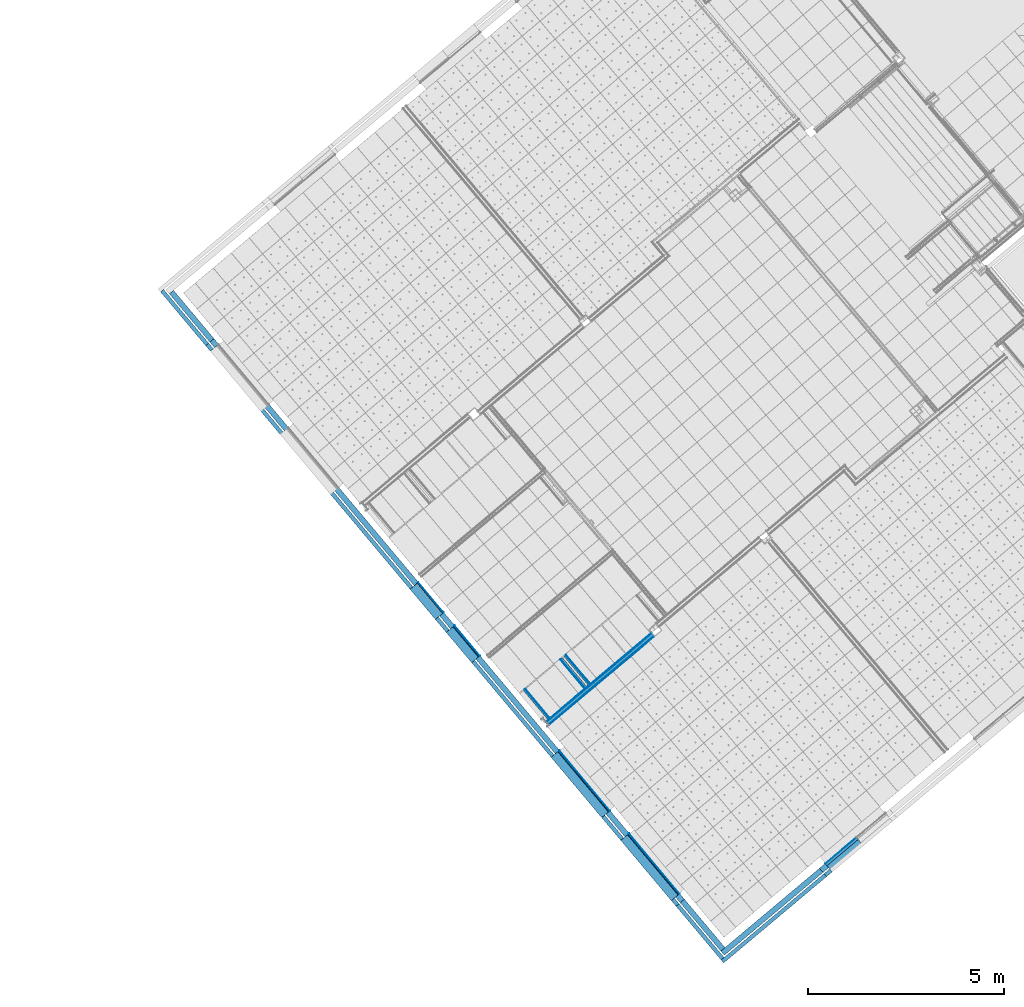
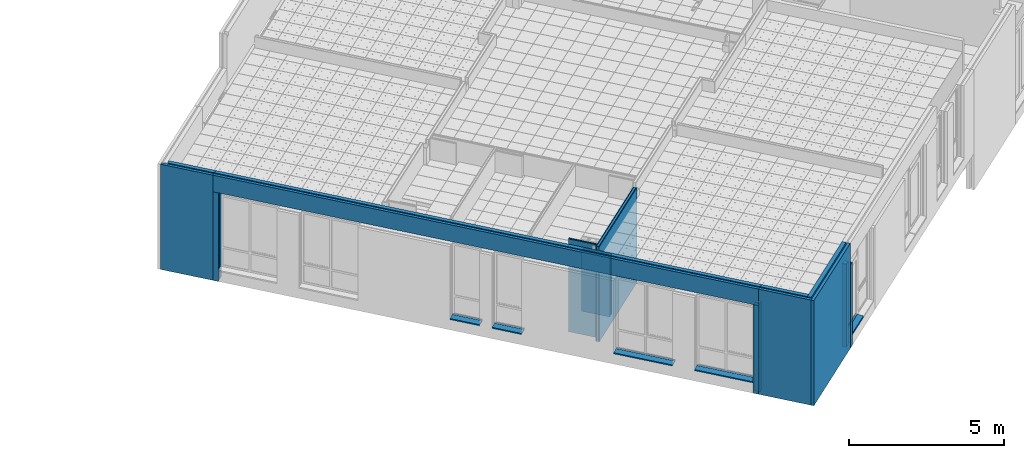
# One storey, part 56 of 338: 42 building element parts, 16 elements without a shape of their own.
"""IFC2X3 building model written with IfcOpenShell, lengths in millimetres."""

from ifc_helpers import new_model, entity, si_unit, converted_unit, derived_unit, money_unit, direction, frame, origin_with_axes, place, context, subcontext, project, spatial, faceted_brep, material, type_object, element, aggregate, save


model = new_model("IFC2X3")

# Units and contexts
model_context = context("Model", 3, precision=0.01, world=origin_with_axes(), true_north=direction((0.0, 1.0)))
plan_context = context("Plan", 3, precision=0.01, world=origin_with_axes(), true_north=direction((0.0, 1.0)))
body_context = subcontext(model_context, "Body", "Model", "MODEL_VIEW")
ifc_project = project(units=[si_unit("LENGTHUNIT", "METRE", prefix="MILLI"), si_unit("AREAUNIT", "SQUARE_METRE"), si_unit("VOLUMEUNIT", "CUBIC_METRE"), converted_unit("PLANEANGLEUNIT", "DEGREE", entity("IfcPlaneAngleMeasure", 0.0174532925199), si_unit("PLANEANGLEUNIT", "RADIAN"), dimensions=[0, 0, 0, 0, 0, 0, 0]), money_unit("EUR"), converted_unit("TIMEUNIT", "Year", entity("IfcTimeMeasure", 31556926.0), si_unit("TIMEUNIT", "SECOND"), dimensions=[0, 0, 1, 0, 0, 0, 0]), si_unit("MASSUNIT", "GRAM", prefix="KILO"), si_unit("THERMODYNAMICTEMPERATUREUNIT", "DEGREE_CELSIUS"), si_unit("LUMINOUSINTENSITYUNIT", "LUMEN"), si_unit("ENERGYUNIT", "JOULE", prefix="MEGA"), derived_unit("THERMALCONDUCTANCEUNIT", [(si_unit("POWERUNIT", "WATT"), 1), (si_unit("LENGTHUNIT", "METRE"), -1), (si_unit("THERMODYNAMICTEMPERATUREUNIT", "KELVIN"), -1)]), derived_unit("SPECIFICHEATCAPACITYUNIT", [(si_unit("ENERGYUNIT", "JOULE"), 1), (si_unit("MASSUNIT", "GRAM", prefix="KILO"), -1), (si_unit("THERMODYNAMICTEMPERATUREUNIT", "KELVIN"), -1)]), derived_unit("MASSDENSITYUNIT", [(si_unit("MASSUNIT", "GRAM", prefix="KILO"), 1), (si_unit("VOLUMEUNIT", "CUBIC_METRE"), -1)])], contexts=[model_context, plan_context])

# Site, building, storey
site_placement = place(None, origin_with_axes())
site = spatial("IfcSite", under=ifc_project, at=site_placement, Name="Fortuinstraat Woensdrecht", CompositionType="ELEMENT")
building_placement = place(site_placement, origin_with_axes())
building = spatial("IfcBuilding", under=site, at=building_placement, Name="IKC Fortuna", CompositionType="ELEMENT")
storey_placement = place(building_placement, origin_with_axes())
storey = spatial("IfcBuildingStorey", under=building, at=storey_placement, Name="00 begane grond", CompositionType="ELEMENT", Elevation=0.0)

# Wall, building element parts
wall_type_1 = type_object("IfcWallType", Name="21 MW hoofd 280", PredefinedType="NOTDEFINED")
wall_1_placement = place(storey_placement, frame((14095.0467052, -16797.8225487, 965.0), z_axis=(0.0, 0.0, 1.0), x_axis=(-0.642787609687, 0.766044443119, 0.0)))
wall_1 = element("IfcWall", 1, at=wall_1_placement, inside=storey, type_object=wall_type_1, Name="21_Wand_Baksteen")
ifc_material_1 = material(Name="Steen - Baksteen Hoofd")
building_element_part_1_placement = place(wall_1_placement, origin_with_axes())
building_element_part_1 = element("IfcBuildingElementPart", 2, at=building_element_part_1_placement, material=ifc_material_1, Name="Steen - Baksteen Hoofd", context=body_context, shape_type="Brep", body=[
    faceted_brep([(-180.0, 280.0, 4135.0), (-180.0, 180.0, 4135.0), (1612.50002062, 180.0, 4135.0), (1612.50002062, 280.0, 4135.0), (-180.0, 280.0, 0.0), (-180.0, 180.0, 0.0), (1612.50002062, 180.0, 0.0), (1612.50002062, 280.0, 0.0)], [[[0, 1, 2, 3]], [[4, 5, 1, 0]], [[1, 5, 6, 2]], [[7, 3, 2, 6]], [[4, 0, 3, 7]], [[5, 4, 7, 6]]]),
])
ifc_material_2 = material(Name="ALG - ISOLATIE")
building_element_part_2_placement = place(wall_1_placement, origin_with_axes())
building_element_part_2 = element("IfcBuildingElementPart", 3, at=building_element_part_2_placement, material=ifc_material_2, Name="ALG - ISOLATIE", context=body_context, shape_type="Brep", body=[
    faceted_brep([(0.0, 0.0, 4135.0), (1612.50002062, 0.0, 4135.0), (1612.50002062, 140.0, 4135.0), (0.0, 140.0, 4135.0), (0.0, 0.0, 0.0), (1612.50002062, 0.0, 0.0), (1612.50002062, 140.0, 0.0), (0.0, 140.0, 0.0)], [[[0, 1, 2, 3]], [[4, 5, 1, 0]], [[2, 1, 5, 6]], [[3, 2, 6, 7]], [[4, 0, 3, 7]], [[7, 6, 5, 4]]]),
])
aggregate(wall_1, [building_element_part_1, building_element_part_2])

wall_2_placement = place(storey_placement, frame((14095.0467052, -16797.8225487, 965.0), z_axis=(0.0, 0.0, 1.0), x_axis=(0.766044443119, 0.642787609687, 0.0)))
wall_2 = element("IfcWall", 4, at=wall_2_placement, inside=storey, type_object=wall_type_1, Name="21_Wand_Baksteen")
building_element_part_3_placement = place(wall_2_placement, origin_with_axes())
building_element_part_3 = element("IfcBuildingElementPart", 5, at=building_element_part_3_placement, material=ifc_material_2, Name="ALG - ISOLATIE", context=body_context, shape_type="Brep", body=[
    faceted_brep([(-140.0, 0.0, 0.0), (3152.78214391, 0.0, 0.0), (3152.78214391, -140.0, 0.0), (-140.0, -140.0, 0.0), (-140.0, 0.0, 4135.0), (3152.78214391, 0.0, 4135.0), (3152.78214391, -140.0, 4135.0), (-140.0, -140.0, 4135.0)], [[[0, 1, 2, 3]], [[4, 5, 1, 0]], [[2, 1, 5, 6]], [[3, 2, 6, 7]], [[4, 0, 3, 7]], [[7, 6, 5, 4]]]),
])
building_element_part_4_placement = place(wall_2_placement, origin_with_axes())
building_element_part_4 = element("IfcBuildingElementPart", 6, at=building_element_part_4_placement, material=ifc_material_1, Name="Steen - Baksteen Hoofd", context=body_context, shape_type="Brep", body=[
    faceted_brep([(-280.0, -280.0, 0.0), (-280.0, -180.0, 0.0), (3152.78214391, -180.0, 0.0), (3152.78214391, -280.0, 0.0), (-280.0, -280.0, 4135.0), (-280.0, -180.0, 4135.0), (3152.78214391, -180.0, 4135.0), (3152.78214391, -280.0, 4135.0)], [[[0, 1, 2, 3]], [[4, 5, 1, 0]], [[1, 5, 6, 2]], [[7, 3, 2, 6]], [[4, 0, 3, 7]], [[5, 4, 7, 6]]]),
])
aggregate(wall_2, [building_element_part_3, building_element_part_4])

wall_type_2 = type_object("IfcWallType", Name="MS125 2.75.2A 125", PredefinedType="NOTDEFINED")
wall_3_placement = place(storey_placement, frame((9589.36390057, -11118.9054061, 1360.0), z_axis=(0.0, 0.0, 1.0), x_axis=(0.766044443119, 0.642787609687, 0.0)))
wall_3 = element("IfcWall", 7, at=wall_3_placement, inside=storey, type_object=wall_type_2, Name="22_Wand_Binnenwand")
ifc_material_3 = material(Name="Gipsplaat")
building_element_part_5_placement = place(wall_3_placement, origin_with_axes())
building_element_part_5 = element("IfcBuildingElementPart", 8, at=building_element_part_5_placement, material=ifc_material_3, Name="Gipsplaat", context=body_context, shape_type="Brep", body=[
    faceted_brep([(3528.71569927, 112.5, 3740.0), (3528.71569927, 125.0, 3740.0), (0.0, 125.0, 3740.0), (0.0, 112.5, 3740.0), (3528.71569927, 112.5, 0.0), (3528.71569927, 125.0, 0.0), (0.0, 125.0, 0.0), (0.0, 112.5, 0.0)], [[[0, 1, 2, 3]], [[0, 4, 5, 1]], [[1, 5, 6, 2]], [[3, 2, 6, 7]], [[4, 0, 3, 7]], [[5, 4, 7, 6]]]),
])
building_element_part_6_placement = place(wall_3_placement, origin_with_axes())
building_element_part_6 = element("IfcBuildingElementPart", 9, at=building_element_part_6_placement, material=ifc_material_3, Name="Gipsplaat", context=body_context, shape_type="Brep", body=[
    faceted_brep([(3528.71569927, 100.0, 3740.0), (3528.71569927, 112.5, 3740.0), (0.0, 112.5, 3740.0), (0.0, 100.0, 3740.0), (3528.71569927, 100.0, 0.0), (3528.71569927, 112.5, 0.0), (0.0, 112.5, 0.0), (0.0, 100.0, 0.0)], [[[0, 1, 2, 3]], [[0, 4, 5, 1]], [[1, 5, 6, 2]], [[3, 2, 6, 7]], [[4, 0, 3, 7]], [[5, 4, 7, 6]]]),
])
ifc_material_4 = material(Name="Isolatie - Steenwol LSW")
building_element_part_7_placement = place(wall_3_placement, origin_with_axes())
building_element_part_7 = element("IfcBuildingElementPart", 10, at=building_element_part_7_placement, material=ifc_material_4, Name="Isolatie - Steenwol LSW", context=body_context, shape_type="Brep", body=[
    faceted_brep([(3528.71569927, 25.0, 3740.0), (3528.71569927, 100.0, 3740.0), (0.0, 100.0, 3740.0), (0.0, 25.0, 3740.0), (3528.71569927, 25.0, 0.0), (3528.71569927, 100.0, 0.0), (0.0, 100.0, 0.0), (0.0, 25.0, 0.0)], [[[0, 1, 2, 3]], [[0, 4, 5, 1]], [[1, 5, 6, 2]], [[3, 2, 6, 7]], [[4, 0, 3, 7]], [[5, 4, 7, 6]]]),
])
building_element_part_8_placement = place(wall_3_placement, origin_with_axes())
building_element_part_8 = element("IfcBuildingElementPart", 11, at=building_element_part_8_placement, material=ifc_material_3, Name="Gipsplaat", context=body_context, shape_type="Brep", body=[
    faceted_brep([(3528.71569927, 12.5, 3740.0), (3528.71569927, 25.0, 3740.0), (0.0, 25.0, 3740.0), (0.0, 12.5, 3740.0), (3528.71569927, 12.5, 0.0), (3528.71569927, 25.0, 0.0), (0.0, 25.0, 0.0), (0.0, 12.5, 0.0)], [[[0, 1, 2, 3]], [[0, 4, 5, 1]], [[1, 5, 6, 2]], [[3, 2, 6, 7]], [[4, 0, 3, 7]], [[5, 4, 7, 6]]]),
])
building_element_part_9_placement = place(wall_3_placement, origin_with_axes())
building_element_part_9 = element("IfcBuildingElementPart", 12, at=building_element_part_9_placement, material=ifc_material_3, Name="Gipsplaat", context=body_context, shape_type="Brep", body=[
    faceted_brep([(3528.71569927, 0.0, 3740.0), (3528.71569927, 12.5, 3740.0), (0.0, 12.5, 3740.0), (0.0, 0.0, 3740.0), (3528.71569927, 0.0, 0.0), (3528.71569927, 12.5, 0.0), (0.0, 12.5, 0.0), (0.0, 0.0, 0.0)], [[[0, 1, 2, 3]], [[0, 4, 5, 1]], [[1, 5, 6, 2]], [[3, 2, 6, 7]], [[4, 0, 3, 7]], [[5, 4, 7, 6]]]),
])
aggregate(wall_3, [building_element_part_5, building_element_part_6, building_element_part_7, building_element_part_8, building_element_part_9])

# Covering, building element parts
covering_type_1 = type_object("IfcCoveringType", Name="41 dorpel 1450 280 x 88", PredefinedType="NOTDEFINED")
covering_1_placement = place(storey_placement, frame((6802.0777967, -8324.20198463, 1447.5), z_axis=(0.0, 0.0, 1.0), x_axis=(-0.642787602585, 0.766044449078, 0.0)))
covering_1 = element("IfcCovering", 13, at=covering_1_placement, inside=storey, type_object=covering_type_1, Name="41_Afwerking_Dorpel", PredefinedType="NOTDEFINED")
ifc_material_5 = material(Name="Steen - Kunststeen")
building_element_part_10_placement = place(covering_1_placement, origin_with_axes())
building_element_part_10 = element("IfcBuildingElementPart", 14, at=building_element_part_10_placement, material=ifc_material_5, Name="Steen - Kunststeen", context=body_context, shape_type="Brep", body=[
    faceted_brep([(1010.0, 140.0, -39.7722078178), (1010.0, 140.0, -85.0), (0.0, 140.0, -85.0), (0.0, 140.0, -39.7722078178), (1010.0, -82.0, -19.5865456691), (1010.0, -82.0, 2.5), (1010.0, -92.0, 2.5), (1010.0, -92.0, -85.0), (0.0, -92.0, -85.0), (0.0, -92.0, 2.5), (0.0, -82.0, 2.5), (0.0, -82.0, -19.5865456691)], [[[0, 1, 2, 3]], [[0, 4, 5, 6, 7, 1]], [[1, 7, 8, 2]], [[3, 2, 8, 9, 10, 11]], [[4, 0, 3, 11]], [[5, 4, 11, 10]], [[6, 5, 10, 9]], [[7, 6, 9, 8]]]),
])
ifc_material_6 = material(Name="Hout AFW")
building_element_part_11_placement = place(covering_1_placement, origin_with_axes())
building_element_part_11 = element("IfcBuildingElementPart", 15, at=building_element_part_11_placement, material=ifc_material_6, Name="Hout AFW", context=body_context, shape_type="Brep", body=[
    faceted_brep([(1010.0, -92.0000008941, 2.49999910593), (1010.0, -92.0000008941, -85.0), (0.0, -92.0000008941, -85.0), (0.0, -92.0000008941, 2.49999910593), (1010.0, -130.0, 2.49999910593), (1010.0, -130.0, -85.0), (0.0, -130.0, -85.0), (0.0, -130.0, 2.49999910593)], [[[0, 1, 2, 3]], [[0, 4, 5, 1]], [[1, 5, 6, 2]], [[3, 2, 6, 7]], [[4, 0, 3, 7]], [[5, 4, 7, 6]]]),
])
ifc_material_7 = material(Name="Isolatie - PUR gespoten")
building_element_part_12_placement = place(covering_1_placement, origin_with_axes())
building_element_part_12 = element("IfcBuildingElementPart", 16, at=building_element_part_12_placement, material=ifc_material_7, Name="Isolatie - PUR gespoten", context=body_context, shape_type="Brep", body=[
    faceted_brep([(1010.0, -129.999999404, -85.0), (1010.0, -140.000000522, -85.0), (0.0, -140.000000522, -85.0), (0.0, -129.999999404, -85.0), (1010.0, -129.999999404, 2.49999869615), (1010.0, -140.000000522, 2.5), (0.0, -140.000000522, 2.5), (0.0, -129.999999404, 2.49999869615)], [[[0, 1, 2, 3]], [[0, 4, 5, 1]], [[1, 5, 6, 2]], [[3, 2, 6, 7]], [[4, 0, 3, 7]], [[5, 4, 7, 6]]]),
])
aggregate(covering_1, [building_element_part_10, building_element_part_11, building_element_part_12])

covering_2_placement = place(storey_placement, frame((12830.7827739, -15508.9328015, 1447.5), z_axis=(0.0, 0.0, 1.0), x_axis=(-0.642787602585, 0.766044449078, 0.0)))
covering_2 = element("IfcCovering", 17, at=covering_2_placement, inside=storey, type_object=covering_type_1, Name="41_Afwerking_Dorpel", PredefinedType="NOTDEFINED")
building_element_part_13_placement = place(covering_2_placement, origin_with_axes())
building_element_part_13 = element("IfcBuildingElementPart", 18, at=building_element_part_13_placement, material=ifc_material_5, Name="Steen - Kunststeen", context=body_context, shape_type="Brep", body=[
    faceted_brep([(2010.0, 140.0, -39.7722078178), (2010.0, 140.0, -85.0), (0.0, 140.0, -85.0), (0.0, 140.0, -39.7722078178), (2010.0, -82.0, -19.5865456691), (2010.0, -82.0, 2.5), (2010.0, -92.0, 2.5), (2010.0, -92.0, -85.0), (0.0, -92.0, -85.0), (0.0, -92.0, 2.5), (0.0, -82.0, 2.5), (0.0, -82.0, -19.5865456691)], [[[0, 1, 2, 3]], [[0, 4, 5, 6, 7, 1]], [[1, 7, 8, 2]], [[3, 2, 8, 9, 10, 11]], [[4, 0, 3, 11]], [[5, 4, 11, 10]], [[6, 5, 10, 9]], [[7, 6, 9, 8]]]),
])
building_element_part_14_placement = place(covering_2_placement, origin_with_axes())
building_element_part_14 = element("IfcBuildingElementPart", 19, at=building_element_part_14_placement, material=ifc_material_6, Name="Hout AFW", context=body_context, shape_type="Brep", body=[
    faceted_brep([(2010.0, -92.0000008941, 2.49999910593), (2010.0, -92.0000008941, -85.0), (0.0, -92.0000008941, -85.0), (0.0, -92.0000008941, 2.49999910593), (2010.0, -130.0, 2.49999910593), (2010.0, -130.0, -85.0), (0.0, -130.0, -85.0), (0.0, -130.0, 2.49999910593)], [[[0, 1, 2, 3]], [[0, 4, 5, 1]], [[1, 5, 6, 2]], [[3, 2, 6, 7]], [[4, 0, 3, 7]], [[5, 4, 7, 6]]]),
])
building_element_part_15_placement = place(covering_2_placement, origin_with_axes())
building_element_part_15 = element("IfcBuildingElementPart", 20, at=building_element_part_15_placement, material=ifc_material_7, Name="Isolatie - PUR gespoten", context=body_context, shape_type="Brep", body=[
    faceted_brep([(2010.0, -129.999999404, -85.0), (2010.0, -140.000000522, -85.0), (0.0, -140.000000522, -85.0), (0.0, -129.999999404, -85.0), (2010.0, -129.999999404, 2.49999869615), (2010.0, -140.000000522, 2.5), (0.0, -140.000000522, 2.5), (0.0, -129.999999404, 2.49999869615)], [[[0, 1, 2, 3]], [[0, 4, 5, 1]], [[1, 5, 6, 2]], [[3, 2, 6, 7]], [[4, 0, 3, 7]], [[5, 4, 7, 6]]]),
])
aggregate(covering_2, [building_element_part_13, building_element_part_14, building_element_part_15])

covering_3_placement = place(storey_placement, frame((11050.2610819, -13386.9896782, 1447.5), z_axis=(0.0, 0.0, 1.0), x_axis=(-0.642787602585, 0.766044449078, 0.0)))
covering_3 = element("IfcCovering", 21, at=covering_3_placement, inside=storey, type_object=covering_type_1, Name="41_Afwerking_Dorpel", PredefinedType="NOTDEFINED")
building_element_part_16_placement = place(covering_3_placement, origin_with_axes())
building_element_part_16 = element("IfcBuildingElementPart", 22, at=building_element_part_16_placement, material=ifc_material_5, Name="Steen - Kunststeen", context=body_context, shape_type="Brep", body=[
    faceted_brep([(2010.0, 140.0, -39.7722078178), (2010.0, 140.0, -85.0), (0.0, 140.0, -85.0), (0.0, 140.0, -39.7722078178), (2010.0, -82.0, -19.5865456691), (2010.0, -82.0, 2.5), (2010.0, -92.0, 2.5), (2010.0, -92.0, -85.0), (0.0, -92.0, -85.0), (0.0, -92.0, 2.5), (0.0, -82.0, 2.5), (0.0, -82.0, -19.5865456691)], [[[0, 1, 2, 3]], [[0, 4, 5, 6, 7, 1]], [[1, 7, 8, 2]], [[3, 2, 8, 9, 10, 11]], [[4, 0, 3, 11]], [[5, 4, 11, 10]], [[6, 5, 10, 9]], [[7, 6, 9, 8]]]),
])
building_element_part_17_placement = place(covering_3_placement, origin_with_axes())
building_element_part_17 = element("IfcBuildingElementPart", 23, at=building_element_part_17_placement, material=ifc_material_6, Name="Hout AFW", context=body_context, shape_type="Brep", body=[
    faceted_brep([(2010.0, -92.0000008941, 2.49999910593), (2010.0, -92.0000008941, -85.0), (0.0, -92.0000008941, -85.0), (0.0, -92.0000008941, 2.49999910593), (2010.0, -130.0, 2.49999910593), (2010.0, -130.0, -85.0), (0.0, -130.0, -85.0), (0.0, -130.0, 2.49999910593)], [[[0, 1, 2, 3]], [[0, 4, 5, 1]], [[1, 5, 6, 2]], [[3, 2, 6, 7]], [[4, 0, 3, 7]], [[5, 4, 7, 6]]]),
])
building_element_part_18_placement = place(covering_3_placement, origin_with_axes())
building_element_part_18 = element("IfcBuildingElementPart", 24, at=building_element_part_18_placement, material=ifc_material_7, Name="Isolatie - PUR gespoten", context=body_context, shape_type="Brep", body=[
    faceted_brep([(2010.0, -129.999999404, -85.0), (2010.0, -140.000000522, -85.0), (0.0, -140.000000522, -85.0), (0.0, -129.999999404, -85.0), (2010.0, -129.999999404, 2.49999869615), (2010.0, -140.000000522, 2.5), (0.0, -140.000000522, 2.5), (0.0, -129.999999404, 2.49999869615)], [[[0, 1, 2, 3]], [[0, 4, 5, 1]], [[1, 5, 6, 2]], [[3, 2, 6, 7]], [[4, 0, 3, 7]], [[5, 4, 7, 6]]]),
])
aggregate(covering_3, [building_element_part_16, building_element_part_17, building_element_part_18])

covering_4_placement = place(storey_placement, frame((7727.69195344, -9427.30598373, 1447.5), z_axis=(0.0, 0.0, 1.0), x_axis=(-0.642787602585, 0.766044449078, 0.0)))
covering_4 = element("IfcCovering", 25, at=covering_4_placement, inside=storey, type_object=covering_type_1, Name="41_Afwerking_Dorpel", PredefinedType="NOTDEFINED")
building_element_part_19_placement = place(covering_4_placement, origin_with_axes())
building_element_part_19 = element("IfcBuildingElementPart", 26, at=building_element_part_19_placement, material=ifc_material_5, Name="Steen - Kunststeen", context=body_context, shape_type="Brep", body=[
    faceted_brep([(1010.0, 140.0, -39.7722078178), (1010.0, 140.0, -85.0), (0.0, 140.0, -85.0), (0.0, 140.0, -39.7722078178), (1010.0, -82.0, -19.5865456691), (1010.0, -82.0, 2.5), (1010.0, -92.0, 2.5), (1010.0, -92.0, -85.0), (0.0, -92.0, -85.0), (0.0, -92.0, 2.5), (0.0, -82.0, 2.5), (0.0, -82.0, -19.5865456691)], [[[0, 1, 2, 3]], [[0, 4, 5, 6, 7, 1]], [[1, 7, 8, 2]], [[3, 2, 8, 9, 10, 11]], [[4, 0, 3, 11]], [[5, 4, 11, 10]], [[6, 5, 10, 9]], [[7, 6, 9, 8]]]),
])
building_element_part_20_placement = place(covering_4_placement, origin_with_axes())
building_element_part_20 = element("IfcBuildingElementPart", 27, at=building_element_part_20_placement, material=ifc_material_6, Name="Hout AFW", context=body_context, shape_type="Brep", body=[
    faceted_brep([(1010.0, -92.0000008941, 2.49999910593), (1010.0, -92.0000008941, -85.0), (0.0, -92.0000008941, -85.0), (0.0, -92.0000008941, 2.49999910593), (1010.0, -130.0, 2.49999910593), (1010.0, -130.0, -85.0), (0.0, -130.0, -85.0), (0.0, -130.0, 2.49999910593)], [[[0, 1, 2, 3]], [[0, 4, 5, 1]], [[1, 5, 6, 2]], [[3, 2, 6, 7]], [[4, 0, 3, 7]], [[5, 4, 7, 6]]]),
])
building_element_part_21_placement = place(covering_4_placement, origin_with_axes())
building_element_part_21 = element("IfcBuildingElementPart", 28, at=building_element_part_21_placement, material=ifc_material_7, Name="Isolatie - PUR gespoten", context=body_context, shape_type="Brep", body=[
    faceted_brep([(1010.0, -129.999999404, -85.0), (1010.0, -140.000000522, -85.0), (0.0, -140.000000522, -85.0), (0.0, -129.999999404, -85.0), (1010.0, -129.999999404, 2.49999869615), (1010.0, -140.000000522, 2.5), (0.0, -140.000000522, 2.5), (0.0, -129.999999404, 2.49999869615)], [[[0, 1, 2, 3]], [[0, 4, 5, 1]], [[1, 5, 6, 2]], [[3, 2, 6, 7]], [[4, 0, 3, 7]], [[5, 4, 7, 6]]]),
])
aggregate(covering_4, [building_element_part_19, building_element_part_20, building_element_part_21])

# Wall, building element parts
wall_type_3 = type_object("IfcWallType", Name="MS75 50.2A 75", PredefinedType="NOTDEFINED")
wall_4_placement = place(storey_placement, frame((9629.67430257, -10931.6956062, 1450.0), z_axis=(0.0, 0.0, 1.0), x_axis=(-0.642787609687, 0.766044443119, 0.0)))
wall_4 = element("IfcWall", 29, at=wall_4_placement, inside=storey, type_object=wall_type_3, Name="22_Wand_Binnenwand")
building_element_part_22_placement = place(wall_4_placement, origin_with_axes())
building_element_part_22 = element("IfcBuildingElementPart", 30, at=building_element_part_22_placement, material=ifc_material_4, Name="Isolatie - Steenwol LSW", context=body_context, shape_type="Brep", body=[
    faceted_brep([(975.655487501, 75.0, 0.0), (975.655487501, 25.0, 0.0), (0.0, 25.0, 0.0), (0.0, 75.0, 0.0), (975.655487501, 75.0, 3650.0), (975.655487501, 25.0, 3650.0), (0.0, 25.0, 3650.0), (0.0, 75.0, 3650.0)], [[[0, 1, 2, 3]], [[0, 4, 5, 1]], [[1, 5, 6, 2]], [[3, 2, 6, 7]], [[4, 0, 3, 7]], [[5, 4, 7, 6]]]),
])
building_element_part_23_placement = place(wall_4_placement, origin_with_axes())
building_element_part_23 = element("IfcBuildingElementPart", 31, at=building_element_part_23_placement, material=ifc_material_3, Name="Gipsplaat", context=body_context, shape_type="Brep", body=[
    faceted_brep([(975.655487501, 25.0, 0.0), (975.655487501, 12.5, 0.0), (0.0, 12.5, 0.0), (0.0, 25.0, 0.0), (975.655487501, 25.0, 3650.0), (975.655487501, 12.5, 3650.0), (0.0, 12.5, 3650.0), (0.0, 25.0, 3650.0)], [[[0, 1, 2, 3]], [[0, 4, 5, 1]], [[1, 5, 6, 2]], [[3, 2, 6, 7]], [[4, 0, 3, 7]], [[5, 4, 7, 6]]]),
])
building_element_part_24_placement = place(wall_4_placement, origin_with_axes())
building_element_part_24 = element("IfcBuildingElementPart", 32, at=building_element_part_24_placement, material=ifc_material_3, Name="Gipsplaat", context=body_context, shape_type="Brep", body=[
    faceted_brep([(975.655487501, 12.5, 0.0), (975.655487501, 0.0, 0.0), (0.0, 0.0, 0.0), (0.0, 12.5, 0.0), (975.655487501, 12.5, 3650.0), (975.655487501, 0.0, 3650.0), (0.0, 0.0, 3650.0), (0.0, 12.5, 3650.0)], [[[0, 1, 2, 3]], [[0, 4, 5, 1]], [[1, 5, 6, 2]], [[3, 2, 6, 7]], [[4, 0, 3, 7]], [[5, 4, 7, 6]]]),
])
aggregate(wall_4, [building_element_part_22, building_element_part_23, building_element_part_24])

wall_5_placement = place(storey_placement, frame((10667.018953, -10061.2600926, 1450.0), z_axis=(0.0, 0.0, 1.0), x_axis=(-0.642787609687, 0.766044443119, 0.0)))
wall_5 = element("IfcWall", 33, at=wall_5_placement, inside=storey, type_object=wall_type_3, Name="22_Wand_Binnenwand")
building_element_part_25_placement = place(wall_5_placement, origin_with_axes())
building_element_part_25 = element("IfcBuildingElementPart", 34, at=building_element_part_25_placement, material=ifc_material_4, Name="Isolatie - Steenwol LSW", context=body_context, shape_type="Brep", body=[
    faceted_brep([(975.655484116, 75.0, 0.0), (975.655484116, 25.0, 0.0), (0.0, 25.0, 0.0), (0.0, 75.0, 0.0), (975.655484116, 75.0, 2367.0), (975.655484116, 25.0, 2367.0), (0.0, 25.0, 2367.0), (0.0, 75.0, 2367.0)], [[[0, 1, 2, 3]], [[0, 4, 5, 1]], [[1, 5, 6, 2]], [[3, 2, 6, 7]], [[4, 0, 3, 7]], [[5, 4, 7, 6]]]),
])
building_element_part_26_placement = place(wall_5_placement, origin_with_axes())
building_element_part_26 = element("IfcBuildingElementPart", 35, at=building_element_part_26_placement, material=ifc_material_3, Name="Gipsplaat", context=body_context, shape_type="Brep", body=[
    faceted_brep([(975.655484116, 25.0, 0.0), (975.655484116, 12.5, 0.0), (0.0, 12.5, 0.0), (0.0, 25.0, 0.0), (975.655484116, 25.0, 2367.0), (975.655484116, 12.5, 2367.0), (0.0, 12.5, 2367.0), (0.0, 25.0, 2367.0)], [[[0, 1, 2, 3]], [[0, 4, 5, 1]], [[1, 5, 6, 2]], [[3, 2, 6, 7]], [[4, 0, 3, 7]], [[5, 4, 7, 6]]]),
])
building_element_part_27_placement = place(wall_5_placement, origin_with_axes())
building_element_part_27 = element("IfcBuildingElementPart", 36, at=building_element_part_27_placement, material=ifc_material_3, Name="Gipsplaat", context=body_context, shape_type="Brep", body=[
    faceted_brep([(975.655484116, 12.5, 0.0), (975.655484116, 0.0, 0.0), (0.0, 0.0, 0.0), (0.0, 12.5, 0.0), (975.655484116, 12.5, 2367.0), (975.655484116, 0.0, 2367.0), (0.0, 0.0, 2367.0), (0.0, 12.5, 2367.0)], [[[0, 1, 2, 3]], [[0, 4, 5, 1]], [[1, 5, 6, 2]], [[3, 2, 6, 7]], [[4, 0, 3, 7]], [[5, 4, 7, 6]]]),
])
aggregate(wall_5, [building_element_part_25, building_element_part_26, building_element_part_27])

wall_6_placement = place(storey_placement, frame((10513.8100643, -10189.8176146, 1450.0), z_axis=(0.0, 0.0, 1.0), x_axis=(-0.642787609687, 0.766044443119, 0.0)))
wall_6 = element("IfcWall", 37, at=wall_6_placement, inside=storey, type_object=wall_type_3, Name="22_Wand_Binnenwand")
building_element_part_28_placement = place(wall_6_placement, origin_with_axes())
building_element_part_28 = element("IfcBuildingElementPart", 38, at=building_element_part_28_placement, material=ifc_material_3, Name="Gipsplaat", context=body_context, shape_type="Brep", body=[
    faceted_brep([(975.655484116, -12.5, 2367.0), (975.655484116, 0.0, 2367.0), (0.0, 0.0, 2367.0), (0.0, -12.5, 2367.0), (975.655484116, -12.5, 0.0), (975.655484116, 0.0, 0.0), (0.0, 0.0, 0.0), (0.0, -12.5, 0.0)], [[[0, 1, 2, 3]], [[0, 4, 5, 1]], [[1, 5, 6, 2]], [[3, 2, 6, 7]], [[4, 0, 3, 7]], [[5, 4, 7, 6]]]),
])
building_element_part_29_placement = place(wall_6_placement, origin_with_axes())
building_element_part_29 = element("IfcBuildingElementPart", 39, at=building_element_part_29_placement, material=ifc_material_3, Name="Gipsplaat", context=body_context, shape_type="Brep", body=[
    faceted_brep([(975.655484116, -25.0, 2367.0), (975.655484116, -12.5, 2367.0), (0.0, -12.5, 2367.0), (0.0, -25.0, 2367.0), (975.655484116, -25.0, 0.0), (975.655484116, -12.5, 0.0), (0.0, -12.5, 0.0), (0.0, -25.0, 0.0)], [[[0, 1, 2, 3]], [[0, 4, 5, 1]], [[1, 5, 6, 2]], [[3, 2, 6, 7]], [[4, 0, 3, 7]], [[5, 4, 7, 6]]]),
])
building_element_part_30_placement = place(wall_6_placement, origin_with_axes())
building_element_part_30 = element("IfcBuildingElementPart", 40, at=building_element_part_30_placement, material=ifc_material_4, Name="Isolatie - Steenwol LSW", context=body_context, shape_type="Brep", body=[
    faceted_brep([(975.655484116, -75.0, 2367.0), (975.655484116, -25.0, 2367.0), (0.0, -25.0, 2367.0), (0.0, -75.0, 2367.0), (975.655484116, -75.0, 0.0), (975.655484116, -25.0, 0.0), (0.0, -25.0, 0.0), (0.0, -75.0, 0.0)], [[[0, 1, 2, 3]], [[0, 4, 5, 1]], [[1, 5, 6, 2]], [[3, 2, 6, 7]], [[4, 0, 3, 7]], [[5, 4, 7, 6]]]),
])
aggregate(wall_6, [building_element_part_28, building_element_part_29, building_element_part_30])

wall_7_placement = place(storey_placement, frame((1036.49503387, -1235.24668032, 4447.5), z_axis=(0.0, 0.0, 1.0), x_axis=(0.642787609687, -0.766044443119, 0.0)))
wall_7 = element("IfcWall", 41, at=wall_7_placement, inside=storey, type_object=wall_type_1, Name="21_Wand_Baksteen")
building_element_part_31_placement = place(wall_7_placement, origin_with_axes())
building_element_part_31 = element("IfcBuildingElementPart", 42, at=building_element_part_31_placement, material=ifc_material_2, Name="ALG - ISOLATIE", context=body_context, shape_type="Brep", body=[
    faceted_brep([(0.0, 0.0, 0.0), (18702.9999588, 0.0, 0.0), (18702.9999588, -140.0, 0.0), (0.0, -140.0, 0.0), (0.0, 0.0, 652.5), (18702.9999588, 0.0, 652.5), (18702.9999588, -140.0, 652.5), (0.0, -140.0, 652.5)], [[[0, 1, 2, 3]], [[4, 5, 1, 0]], [[2, 1, 5, 6]], [[3, 2, 6, 7]], [[4, 0, 3, 7]], [[7, 6, 5, 4]]]),
])
building_element_part_32_placement = place(wall_7_placement, origin_with_axes())
building_element_part_32 = element("IfcBuildingElementPart", 43, at=building_element_part_32_placement, material=ifc_material_1, Name="Steen - Baksteen Hoofd", context=body_context, shape_type="Brep", body=[
    faceted_brep([(0.0, -180.0, 0.0), (18702.9999588, -180.0, 0.0), (18702.9999588, -280.0, 0.0), (0.0, -280.0, 0.0), (0.0, -180.0, 652.5), (18702.9999588, -180.0, 652.5), (18702.9999588, -280.0, 652.5), (0.0, -280.0, 652.5)], [[[0, 1, 2, 3]], [[4, 5, 1, 0]], [[2, 1, 5, 6]], [[3, 2, 6, 7]], [[4, 0, 3, 7]], [[7, 6, 5, 4]]]),
])
aggregate(wall_7, [building_element_part_31, building_element_part_32])

wall_8_placement = place(storey_placement, frame((1036.49503387, -1235.24668032, 965.0), z_axis=(0.0, 0.0, 1.0), x_axis=(-0.642787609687, 0.766044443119, 0.0)))
wall_8 = element("IfcWall", 44, at=wall_8_placement, inside=storey, type_object=wall_type_1, Name="21_Wand_Baksteen")
building_element_part_33_placement = place(wall_8_placement, origin_with_axes())
building_element_part_33 = element("IfcBuildingElementPart", 45, at=building_element_part_33_placement, material=ifc_material_1, Name="Steen - Baksteen Hoofd", context=body_context, shape_type="Brep", body=[
    faceted_brep([(0.0, 180.0, 4135.0), (1792.50002062, 180.0, 4135.0), (1792.50002062, 280.0, 4135.0), (0.0, 280.0, 4135.0), (0.0, 180.0, 0.0), (1792.50002062, 180.0, 0.0), (1792.50002062, 280.0, 0.0), (0.0, 280.0, 0.0)], [[[0, 1, 2, 3]], [[4, 5, 1, 0]], [[6, 2, 1, 5]], [[3, 2, 6, 7]], [[7, 4, 0, 3]], [[7, 6, 5, 4]]]),
])
building_element_part_34_placement = place(wall_8_placement, origin_with_axes())
building_element_part_34 = element("IfcBuildingElementPart", 46, at=building_element_part_34_placement, material=ifc_material_2, Name="ALG - ISOLATIE", context=body_context, shape_type="Brep", body=[
    faceted_brep([(1612.50002062, 0.0, 4135.0), (1612.50002062, 140.0, 4135.0), (0.0, 140.0, 4135.0), (0.0, 0.0, 4135.0), (1612.50002062, 0.0, 0.0), (1612.50002062, 140.0, 0.0), (0.0, 140.0, 0.0), (0.0, 0.0, 0.0)], [[[0, 1, 2, 3]], [[1, 0, 4, 5]], [[1, 5, 6, 2]], [[7, 3, 2, 6]], [[4, 0, 3, 7]], [[5, 4, 7, 6]]]),
])
aggregate(wall_8, [building_element_part_33, building_element_part_34])

# Covering, building element parts
covering_type_2 = type_object("IfcCoveringType", Name="41 dorpel d bi 1450 280 x 108", PredefinedType="NOTDEFINED")
covering_5_placement = place(storey_placement, frame((16743.8415375, -14757.9767889, 1447.5), z_axis=(0.0, 0.0, 1.0), x_axis=(0.76604443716, 0.642787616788, 0.0)))
covering_5 = element("IfcCovering", 47, at=covering_5_placement, inside=storey, type_object=covering_type_2, Name="41_Afwerking_Dorpel", PredefinedType="NOTDEFINED")
building_element_part_35_placement = place(covering_5_placement, origin_with_axes())
building_element_part_35 = element("IfcBuildingElementPart", 48, at=building_element_part_35_placement, material=ifc_material_7, Name="Isolatie - PUR gespoten", context=body_context, shape_type="Brep", body=[
    faceted_brep([(1043.0, 140.0, -85.0), (1043.0, 129.999999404, -85.0), (0.0, 129.999999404, -85.0), (0.0, 140.0, -85.0), (1043.0, 140.0, 2.5), (1043.0, 129.999999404, 2.5), (0.0, 129.999999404, 2.5), (0.0, 140.0, 2.5)], [[[0, 1, 2, 3]], [[0, 4, 5, 1]], [[1, 5, 6, 2]], [[3, 2, 6, 7]], [[4, 0, 3, 7]], [[5, 4, 7, 6]]]),
])
building_element_part_36_placement = place(covering_5_placement, origin_with_axes())
building_element_part_36 = element("IfcBuildingElementPart", 49, at=building_element_part_36_placement, material=ifc_material_5, Name="Steen - Kunststeen", context=body_context, shape_type="Brep", body=[
    faceted_brep([(1043.0, 68.0, 2.5), (1043.0, 68.0, 22.5), (0.0, 68.0, 22.5), (0.0, 68.0, 2.5), (1043.0, -140.0, -16.4126924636), (1043.0, -140.0, -85.0), (1043.0, 130.0, -85.0), (1043.0, 129.999999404, 2.5), (1043.0, 130.0, 22.5), (0.0, 130.0, 22.5), (0.0, 129.999999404, 2.5), (0.0, 130.0, -85.0), (0.0, -140.0, -85.0), (0.0, -140.0, -16.4126924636)], [[[0, 1, 2, 3]], [[0, 4, 5, 6, 7, 8, 1]], [[1, 8, 9, 2]], [[3, 2, 9, 10, 11, 12, 13]], [[4, 0, 3, 13]], [[5, 4, 13, 12]], [[6, 5, 12, 11]], [[7, 6, 11, 10]], [[8, 7, 10, 9]]]),
])
aggregate(covering_5, [building_element_part_35, building_element_part_36])

covering_type_3 = type_object("IfcCoveringType", Name="21 MW accent rollaag 280", PredefinedType="NOTDEFINED")
covering_6_placement = place(storey_placement, frame((16833.8318107, -14865.2230179, 965.0), z_axis=(0.0, 0.0, 1.0), x_axis=(-0.766044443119, -0.642787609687, 0.0)))
covering_6 = element("IfcCovering", 50, at=covering_6_placement, inside=storey, type_object=covering_type_3, Name="41_Afwerking_Rollaag", PredefinedType="NOTDEFINED")
ifc_material_8 = material(Name="Steen - Baksteen Accent Rollaag")
building_element_part_37_placement = place(covering_6_placement, origin_with_axes())
building_element_part_37 = element("IfcBuildingElementPart", 51, at=building_element_part_37_placement, material=ifc_material_8, Name="Steen - Baksteen Accent Rollaag", context=body_context, shape_type="Brep", body=[
    faceted_brep([(187.5, -100.0, 3272.5), (187.5, 0.0, 3272.5), (0.0, 0.0, 3272.5), (0.0, -100.0, 3272.5), (187.5, -100.0, 0.0), (187.5, 0.0, 0.0), (0.0, 0.0, 0.0), (0.0, -100.0, 0.0)], [[[0, 1, 2, 3]], [[0, 4, 5, 1]], [[1, 5, 6, 2]], [[3, 2, 6, 7]], [[4, 0, 3, 7]], [[5, 4, 7, 6]]]),
])
building_element_part_38_placement = place(covering_6_placement, origin_with_axes())
building_element_part_38 = element("IfcBuildingElementPart", 52, at=building_element_part_38_placement, material=ifc_material_2, Name="ALG - ISOLATIE", context=body_context, shape_type="Brep", body=[
    faceted_brep([(187.5, -280.0, 3272.5), (187.5, -140.0, 3272.5), (0.0, -140.0, 3272.5), (0.0, -280.0, 3272.5), (187.5, -280.0, 0.0), (187.5, -140.0, 0.0), (0.0, -140.0, 0.0), (0.0, -280.0, 0.0)], [[[0, 1, 2, 3]], [[0, 4, 5, 1]], [[1, 5, 6, 2]], [[3, 2, 6, 7]], [[4, 0, 3, 7]], [[5, 4, 7, 6]]]),
])
aggregate(covering_6, [building_element_part_37, building_element_part_38])

covering_7_placement = place(storey_placement, frame((12844.0592273, -15742.5563991, 965.0), z_axis=(0.0, 0.0, 1.0), x_axis=(-0.642787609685, 0.766044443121, 0.0)))
covering_7 = element("IfcCovering", 53, at=covering_7_placement, inside=storey, type_object=covering_type_3, Name="41_Afwerking_Rollaag", PredefinedType="NOTDEFINED")
building_element_part_39_placement = place(covering_7_placement, origin_with_axes())
building_element_part_39 = element("IfcBuildingElementPart", 54, at=building_element_part_39_placement, material=ifc_material_8, Name="Steen - Baksteen Accent Rollaag", context=body_context, shape_type="Brep", body=[
    faceted_brep([(187.5, -100.0, 3275.0), (49.499979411, -100.0, 3275.0), (49.499979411, -100.000000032, 3297.0), (187.5, -100.000000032, 3297.0), (187.5, -100.0, 3482.5), (0.0, -100.0, 3482.5), (0.0, -100.0, 0.0), (187.5, -100.0, 0.0), (187.5, -10.0000000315, 3275.0), (49.4999794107, -10.0000000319, 3275.0), (49.4999794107, -10.0000000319, 3279.0), (49.4999794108, -11.7573593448, 3283.24264069), (49.4999794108, -16.0000000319, 3285.0), (49.4999794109, -88.0000000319, 3285.0), (49.499979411, -96.4852814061, 3288.51471863), (187.5, -96.4852814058, 3288.51471863), (187.5, 0.0, 0.0), (187.5, 0.0, 3482.5), (187.5, -88.0000000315, 3285.0), (187.5, -16.0000000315, 3285.0), (187.5, -11.7573593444, 3283.24264069), (187.5, -10.0000000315, 3279.0), (0.0, 0.0, 3482.5), (0.0, 0.0, 0.0)], [[[0, 1, 2, 3, 4, 5, 6, 7]], [[1, 0, 8, 9]], [[2, 1, 9, 10, 11, 12, 13, 14]], [[3, 2, 14, 15]], [[8, 0, 7, 16, 17, 4, 3, 15, 18, 19, 20, 21]], [[5, 4, 17, 22]], [[6, 5, 22, 23]], [[23, 16, 7, 6]], [[8, 21, 10, 9]], [[21, 20, 11, 10]], [[20, 19, 12, 11]], [[19, 18, 13, 12]], [[18, 15, 14, 13]], [[22, 17, 16, 23]]]),
])
building_element_part_40_placement = place(covering_7_placement, origin_with_axes())
building_element_part_40 = element("IfcBuildingElementPart", 55, at=building_element_part_40_placement, material=ifc_material_2, Name="ALG - ISOLATIE", context=body_context, shape_type="Brep", body=[
    faceted_brep([(0.0, -280.0, 3482.5), (187.5, -280.0, 3482.5), (187.5, -140.0, 3482.5), (0.0, -140.0, 3482.5), (0.0, -280.0, 0.0), (187.5, -280.0, 0.0), (187.5, -140.0, 0.0), (0.0, -140.0, 0.0)], [[[0, 1, 2, 3]], [[4, 5, 1, 0]], [[2, 1, 5, 6]], [[3, 2, 6, 7]], [[4, 0, 3, 7]], [[7, 6, 5, 4]]]),
])
aggregate(covering_7, [building_element_part_39, building_element_part_40])

covering_8_placement = place(storey_placement, frame((942.525266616, -1558.86054412, 965.0), z_axis=(0.0, 0.0, 1.0), x_axis=(-0.642787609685, 0.766044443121, 0.0)))
covering_8 = element("IfcCovering", 56, at=covering_8_placement, inside=storey, type_object=covering_type_3, Name="41_Afwerking_Rollaag", PredefinedType="NOTDEFINED")
building_element_part_41_placement = place(covering_8_placement, origin_with_axes())
building_element_part_41 = element("IfcBuildingElementPart", 57, at=building_element_part_41_placement, material=ifc_material_8, Name="Steen - Baksteen Accent Rollaag", context=body_context, shape_type="Brep", body=[
    faceted_brep([(0.0, -88.0000000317, 3285.0), (0.0, -96.4852814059, 3288.51471863), (0.0, -100.000000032, 3297.0), (0.0, -100.0, 3482.5), (0.0, 0.0, 3482.5), (0.0, 0.0, 0.0), (0.0, -100.0, 0.0), (0.0, -100.0, 3275.0), (0.0, -10.0000000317, 3275.0), (0.0, -10.0000000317, 3279.0), (0.0, -11.7573593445, 3283.24264069), (0.0, -16.0000000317, 3285.0), (136.000020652, -88.0000000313, 3285.0), (136.000020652, -96.4852814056, 3288.51471863), (136.000020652, -100.000000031, 3297.0), (136.000020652, -100.0, 3275.0), (187.5, -100.0, 0.0), (187.5, -100.0, 3482.5), (187.5, 0.0, 3482.5), (187.5, 0.0, 0.0), (136.000020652, -10.0000000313, 3275.0), (136.000020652, -10.0000000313, 3279.0), (136.000020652, -11.7573593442, 3283.24264069), (136.000020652, -16.0000000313, 3285.0)], [[[0, 1, 2, 3, 4, 5, 6, 7, 8, 9, 10, 11]], [[1, 0, 12, 13]], [[14, 2, 1, 13]], [[15, 7, 6, 16, 17, 3, 2, 14]], [[3, 17, 18, 4]], [[4, 18, 19, 5]], [[5, 19, 16, 6]], [[8, 7, 15, 20]], [[9, 8, 20, 21]], [[10, 9, 21, 22]], [[11, 10, 22, 23]], [[0, 11, 23, 12]], [[15, 14, 13, 12, 23, 22, 21, 20]], [[18, 17, 16, 19]]]),
])
building_element_part_42_placement = place(covering_8_placement, origin_with_axes())
building_element_part_42 = element("IfcBuildingElementPart", 58, at=building_element_part_42_placement, material=ifc_material_2, Name="ALG - ISOLATIE", context=body_context, shape_type="Brep", body=[
    faceted_brep([(0.0, -280.0, 3482.5), (187.5, -280.0, 3482.5), (187.5, -140.0, 3482.5), (0.0, -140.0, 3482.5), (0.0, -280.0, 0.0), (187.5, -280.0, 0.0), (187.5, -140.0, 0.0), (0.0, -140.0, 0.0)], [[[0, 1, 2, 3]], [[4, 5, 1, 0]], [[2, 1, 5, 6]], [[3, 2, 6, 7]], [[4, 0, 3, 7]], [[7, 6, 5, 4]]]),
])
aggregate(covering_8, [building_element_part_41, building_element_part_42])

save(model, "model.ifc")
